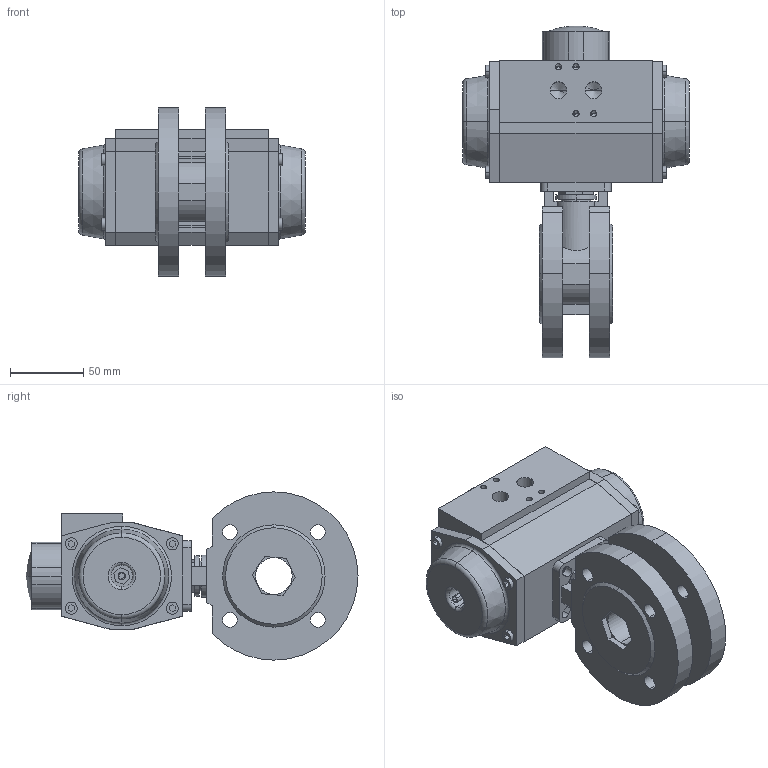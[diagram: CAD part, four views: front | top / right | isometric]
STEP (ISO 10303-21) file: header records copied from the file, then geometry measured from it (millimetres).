
FILE_DESCRIPTION (( 'STEP AP214' ), '1' );
FILE_NAME ('S15D DN25 + AP2.STEP', '2012-04-24T08:18:50', ( 'Jan' ), ( '' ), 'SwSTEP 2.0', 'SolidWorks 2011', '' );
FILE_SCHEMA (( 'AUTOMOTIVE_DESIGN' ));
Length unit declared in the file: millimetre
Products named in the file (3): S15D DN25 + AP2; S15D KK DN25 PN16; AP2_Default<As Machined>
Assembly tree (2 placements, depth 2):
  S15D DN25 + AP2
    S15D KK DN25 PN16
    AP2_Default<As Machined>
Bounding box: 155 x 226.99 x 115 mm (x, y, z)
Volume: 1159237.1 mm3; surface area: 135992 mm2
Topology: 9 solids, 9 shells, 398 faces, 1005 edges, 643 vertices
Faces by surface type: plane 230, cylinder 118, cone 36, torus 12, sphere 2
Entity records: 13150 total; most frequent: CARTESIAN_POINT 2072, DIRECTION 2065, ORIENTED_EDGE 1954, EDGE_CURVE 977, LINE 689, VECTOR 689, AXIS2_PLACEMENT_3D 688, VERTEX_POINT 643
